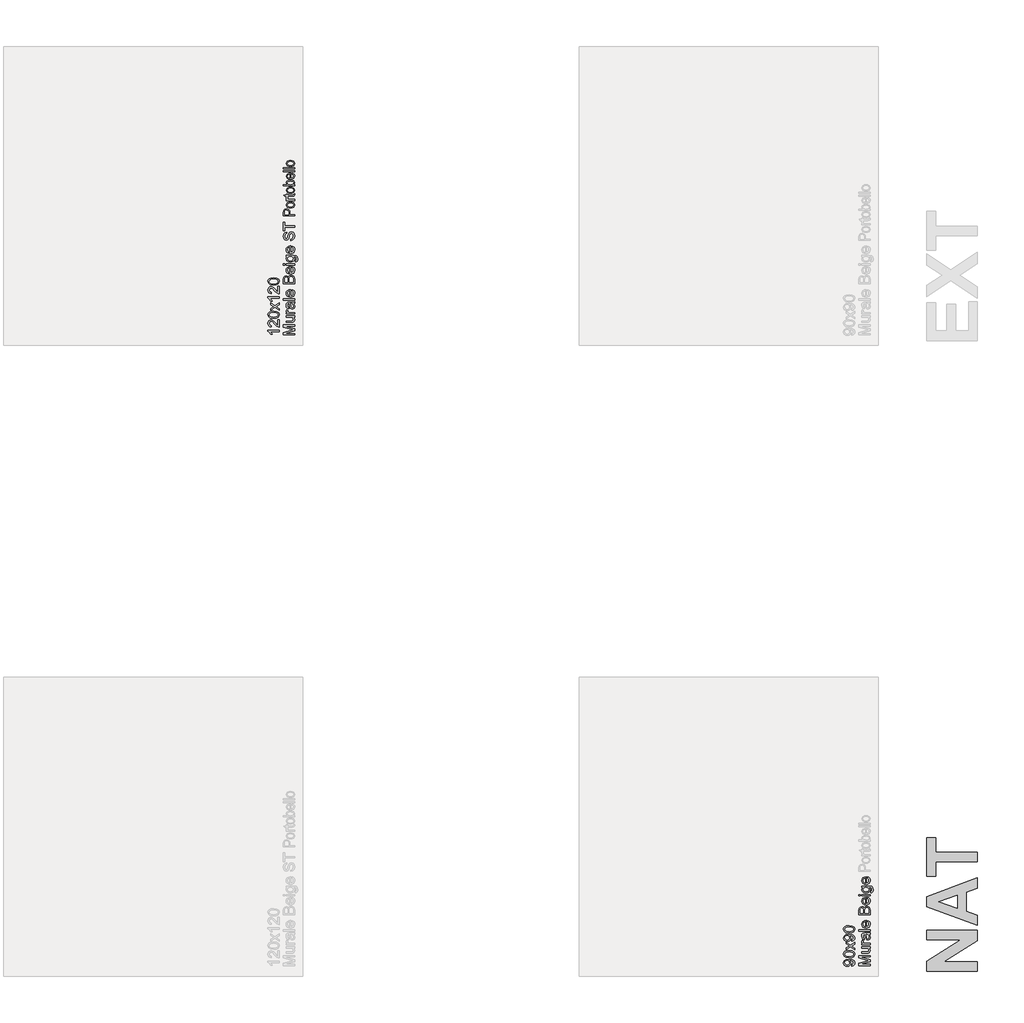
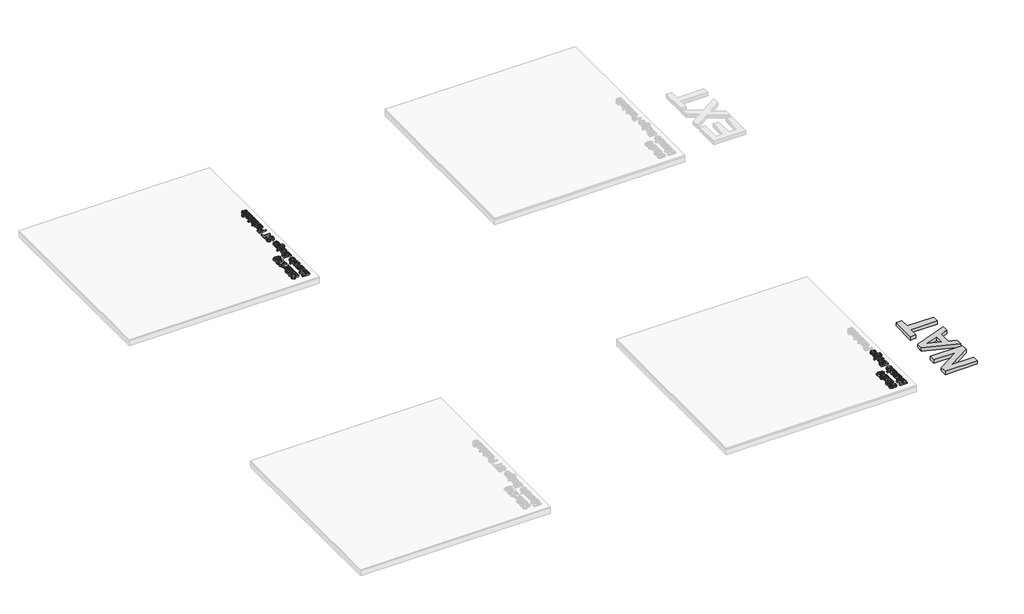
# One storey, part 14 of 21: 6 proxies.
"""IFC4 building model written with IfcOpenShell, lengths in millimetres."""

from ifc_helpers import new_model, si_unit, frame, origin, origin_with_axes, place, context, project, spatial, polyline, outline, extrude, element, save

model = new_model("IFC4")

# Units and contexts
model_context = context("Model", 3, world=origin())
ifc_project = project(units=[si_unit("LENGTHUNIT", "METRE", prefix="MILLI")], contexts=[model_context])

# Site, building, storey
site = spatial("IfcSite", under=ifc_project)
building = spatial("IfcBuilding", under=site)
storey = spatial("IfcBuildingStorey", under=building, Name="PORTOBELLO - SHOWROOM", Elevation=0.0)

# Proxies
placement = place(None, origin())
element("IfcBuildingElementProxy", 1, Name="10mm Arial", ObjectType="10mm Arial", at=placement, inside=storey, context=model_context, shape_type="SweptSolid", body=[
    extrude(outline(polyline([(28359.4625095, 16969.8696803), (28259.0061994, 16969.8696803), (28259.0061994, 16991.4030397), (28329.8112207, 17012.0044314), (28344.6000769, 17016.1737607), (28328.5849474, 17020.6619211), (28259.0061994, 17040.8709053), (28259.0061994, 17062.4778412), (28359.4625095, 17062.4778412), (28359.4625095, 17049.9208024), (28271.5632382, 17049.9208024), (28359.4625095, 17024.6840975), (28359.4625095, 17007.6879494), (28271.5632382, 16982.426719), (28359.4625095, 16982.426719), (28359.4625095, 16969.8696803)])), frame((0.0, 0.0, 18.0), z_axis=(0.0, 0.0, 1.0), x_axis=(1.0, 0.0, 0.0)), (0.0, 0.0, 1.0), 20.0),
    extrude(outline(polyline([(28359.4625095, 17129.9719246), (28346.7828434, 17129.9719246), (28357.4698154, 17120.1372126), (28361.0321394, 17107.3103937), (28358.5305418, 17095.5013816), (28352.2520224, 17087.3589268), (28343.0059216, 17083.6187932), (28331.3317996, 17082.8830292), (28285.6899068, 17082.8830292), (28285.6899068, 17095.4400679), (28325.4211622, 17095.4400679), (28338.2234557, 17096.2003574), (28345.7405111, 17101.1667643), (28348.4751006, 17110.5232297), (28345.6791974, 17121.0078666), (28338.0640401, 17127.9363109), (28324.0722616, 17129.9719246), (28285.6899068, 17129.9719246), (28285.6899068, 17142.5289633), (28359.4625095, 17142.5289633), (28359.4625095, 17129.9719246)])), frame((0.0, 0.0, 18.0), z_axis=(0.0, 0.0, 1.0), x_axis=(1.0, 0.0, 0.0)), (0.0, 0.0, 1.0), 20.0),
    extrude(outline(polyline([(28359.4625095, 17159.7948916), (28285.6899068, 17159.7948916), (28285.6899068, 17170.7823006), (28296.6037393, 17170.7823006), (28286.5482981, 17178.5813989), (28284.1202769, 17186.4295481), (28287.9953006, 17199.0356378), (28299.2524897, 17194.841783), (28296.6773157, 17186.0126152), (28299.1543878, 17178.9124927), (28306.0215184, 17174.3875441), (28320.6877472, 17172.3519304), (28359.4625095, 17172.3519304), (28359.4625095, 17159.7948916)])), frame((0.0, 0.0, 18.0), z_axis=(0.0, 0.0, 1.0), x_axis=(1.0, 0.0, 0.0)), (0.0, 0.0, 1.0), 20.0),
    extrude(outline(polyline([(28350.0447305, 17253.9726824), (28358.5550673, 17241.7957884), (28361.0321394, 17228.3435701), (28359.5422173, 17217.8497362), (28355.0724511, 17210.1088858), (28348.2850282, 17205.335617), (28339.8421365, 17203.7445273), (28329.9093226, 17206.148023), (28322.6988355, 17212.4633306), (28318.5785571, 17221.2557103), (28316.6900962, 17232.1204919), (28312.3736142, 17253.899106), (28309.577711, 17253.9726824), (28300.3070847, 17250.5145916), (28296.6773157, 17236.6331777), (28299.0930741, 17223.9289861), (28307.6647246, 17217.8711959), (28306.0950948, 17205.3141572), (28293.8323616, 17210.746548), (28286.6464, 17221.684906), (28284.1202769, 17238.2518585), (28286.3520944, 17253.4699103), (28291.9561634, 17262.0660863), (28300.478763, 17265.9165845), (28311.4661719, 17266.5297212), (28327.088894, 17266.5297212), (28348.9042963, 17267.1673833), (28359.4625095, 17269.6689809), (28359.4625095, 17257.1119421), (28350.0447305, 17253.9726824)]), holes=[polyline([(28324.9306529, 17253.9726824), (28328.7811511, 17233.7146472), (28330.8167648, 17222.9111793), (28334.1277028, 17218.0183487), (28338.9592197, 17216.3015661), (28345.7527738, 17220.0416997), (28348.4751006, 17231.0168459), (28345.470731, 17243.7210375), (28338.1989302, 17251.9125432), (28328.4868455, 17253.899106), (28324.9306529, 17253.9726824)])]), frame((0.0, 0.0, 18.0), z_axis=(0.0, 0.0, 1.0), x_axis=(1.0, 0.0, 0.0)), (0.0, 0.0, 1.0), 20.0),
    extrude(outline(polyline([(28359.4625095, 17283.7956495), (28259.0061994, 17283.7956495), (28259.0061994, 17296.3526882), (28359.4625095, 17296.3526882), (28359.4625095, 17283.7956495)])), frame((0.0, 0.0, 18.0), z_axis=(0.0, 0.0, 1.0), x_axis=(1.0, 0.0, 0.0)), (0.0, 0.0, 1.0), 20.0),
    extrude(outline(polyline([(28337.4876917, 17366.8388785), (28339.0573215, 17379.1506626), (28348.3340792, 17374.7146189), (28355.2686548, 17367.6359562), (28359.5912682, 17358.07409), (28361.0321394, 17346.1884359), (28358.5458702, 17331.454762), (28351.0870628, 17320.1178651), (28339.140095, 17312.8889839), (28323.1893448, 17310.4793569), (28306.7021001, 17312.9135094), (28294.3719219, 17320.215967), (28286.6831882, 17331.3995797), (28284.1202769, 17345.4771973), (28286.6770568, 17359.1164223), (28294.3473964, 17370.0149264), (28306.6530491, 17377.1610342), (28323.1157684, 17379.5430701), (28326.5002828, 17379.4694937), (28326.5002828, 17323.0363956), (28335.8996677, 17325.2099651), (28342.8097179, 17330.2591455), (28347.0587549, 17337.5462747), (28348.4751006, 17346.4336905), (28345.8508757, 17358.7454746), (28337.4876917, 17366.8388785)]), holes=[polyline([(28313.943244, 17323.0363956), (28313.943244, 17366.9860313), (28302.5634276, 17361.9583107), (28298.1488437, 17354.637459), (28296.6773157, 17345.4281464), (28301.3739425, 17329.9648399), (28306.8645813, 17325.0996005), (28313.943244, 17323.0363956)])]), frame((0.0, 0.0, 18.0), z_axis=(0.0, 0.0, 1.0), x_axis=(1.0, 0.0, 0.0)), (0.0, 0.0, 1.0), 20.0),
    extrude(outline(polyline([(28359.4625095, 17432.9104849), (28259.0061994, 17432.9104849), (28259.0061994, 17471.2437888), (28261.9615181, 17490.0180332), (28271.0482034, 17501.103544), (28283.8995477, 17505.1134578), (28295.6349834, 17501.7412062), (28304.5254649, 17491.5508749), (28313.8941931, 17503.9239727), (28329.5169151, 17508.2527175), (28343.0181843, 17505.2973988), (28352.6321672, 17497.9765471), (28357.7334642, 17487.0504518), (28359.4625095, 17470.9494832), (28359.4625095, 17432.9104849)]), holes=[polyline([(28299.8165754, 17445.4675236), (28299.8165754, 17468.3988347), (28298.7374549, 17481.7897393), (28294.089879, 17489.846355), (28285.910636, 17492.556419), (28277.7191302, 17490.030296), (28272.8753506, 17482.7952834), (28271.5632382, 17466.6575265), (28271.5632382, 17445.4675236), (28299.8165754, 17445.4675236)]), polyline([(28346.9054708, 17445.4675236), (28346.9054708, 17471.2192633), (28346.4149614, 17480.5389405), (28343.6803719, 17488.4238779), (28338.1008283, 17493.6478023), (28329.6395425, 17495.6956787), (28319.8784069, 17493.292183), (28314.0536086, 17485.5053474), (28312.3736142, 17469.99299), (28312.3736142, 17445.4675236), (28346.9054708, 17445.4675236)])]), frame((0.0, 0.0, 18.0), z_axis=(0.0, 0.0, 1.0), x_axis=(1.0, 0.0, 0.0)), (0.0, 0.0, 1.0), 20.0),
    extrude(outline(polyline([(28337.4876917, 17575.5996481), (28339.0573215, 17587.9114322), (28348.3340792, 17583.4753884), (28355.2686548, 17576.3967257), (28359.5912682, 17566.8348595), (28361.0321394, 17554.9492054), (28358.5458702, 17540.2155315), (28351.0870628, 17528.8786347), (28339.140095, 17521.6497535), (28323.1893448, 17519.2401264), (28306.7021001, 17521.6742789), (28294.3719219, 17528.9767365), (28286.6831882, 17540.1603492), (28284.1202769, 17554.2379669), (28286.6770568, 17567.8771918), (28294.3473964, 17578.7756959), (28306.6530491, 17585.9218037), (28323.1157684, 17588.3038396), (28326.5002828, 17588.2302632), (28326.5002828, 17531.7971652), (28335.8996677, 17533.9707346), (28342.8097179, 17539.019915), (28347.0587549, 17546.3070442), (28348.4751006, 17555.1944601), (28345.8508757, 17567.5062442), (28337.4876917, 17575.5996481)]), holes=[polyline([(28313.943244, 17531.7971652), (28313.943244, 17575.7468008), (28302.5634276, 17570.7190802), (28298.1488437, 17563.3982285), (28296.6773157, 17554.1889159), (28301.3739425, 17538.7256094), (28306.8645813, 17533.86037), (28313.943244, 17531.7971652)])]), frame((0.0, 0.0, 18.0), z_axis=(0.0, 0.0, 1.0), x_axis=(1.0, 0.0, 0.0)), (0.0, 0.0, 1.0), 20.0),
    extrude(outline(polyline([(28271.5632382, 17600.8608784), (28259.0061994, 17600.8608784), (28259.0061994, 17613.4179172), (28271.5632382, 17613.4179172), (28271.5632382, 17600.8608784)])), frame((0.0, 0.0, 18.0), z_axis=(0.0, 0.0, 1.0), x_axis=(1.0, 0.0, 0.0)), (0.0, 0.0, 1.0), 20.0),
    extrude(outline(polyline([(28359.4625095, 17600.8608784), (28285.6899068, 17600.8608784), (28285.6899068, 17613.4179172), (28359.4625095, 17613.4179172), (28359.4625095, 17600.8608784)])), frame((0.0, 0.0, 18.0), z_axis=(0.0, 0.0, 1.0), x_axis=(1.0, 0.0, 0.0)), (0.0, 0.0, 1.0), 20.0),
    extrude(outline(polyline([(28365.7410289, 17629.1142156), (28367.3106588, 17641.6712544), (28373.9325347, 17645.7424818), (28376.7284378, 17657.9316386), (28373.5646527, 17670.7829829), (28364.6864339, 17676.9143495), (28350.0447305, 17677.7727408), (28357.1080648, 17668.9313102), (28359.4625095, 17658.1523678), (28356.7217887, 17645.2059872), (28348.4996261, 17635.5521505), (28336.4453594, 17629.546477), (28322.2083262, 17627.5445858), (28302.7473686, 17631.1375666), (28288.9763193, 17641.5363643), (28284.1202769, 17657.5392311), (28286.8671292, 17668.7412379), (28295.1076858, 17677.7727408), (28285.6899068, 17677.7727408), (28285.6899068, 17690.3297796), (28349.3825429, 17690.3297796), (28373.7731191, 17686.8962143), (28385.1161473, 17676.01917), (28389.2854766, 17657.6863839), (28387.8170143, 17646.0030649), (28383.4116274, 17636.8029493), (28376.0570532, 17630.901509), (28365.7410289, 17629.1142156)]), holes=[polyline([(28321.3499348, 17640.1016245), (28332.867707, 17641.4413281), (28340.7863669, 17645.4604389), (28345.3756948, 17651.5029007), (28346.9054708, 17658.9126572), (28345.3848919, 17666.2672314), (28340.8231551, 17672.34035), (28333.0056627, 17676.4146431), (28321.7178168, 17677.7727408), (28310.8315755, 17676.3747893), (28302.9926233, 17672.1809345), (28298.2561426, 17666.0189111), (28296.6773157, 17658.7164535), (28298.2316171, 17651.5458203), (28302.8945214, 17645.5340153), (28310.6169776, 17641.4597222), (28321.3499348, 17640.1016245)])]), frame((0.0, 0.0, 18.0), z_axis=(0.0, 0.0, 1.0), x_axis=(1.0, 0.0, 0.0)), (0.0, 0.0, 1.0), 20.0),
    extrude(outline(polyline([(28337.4876917, 17760.8159699), (28339.0573215, 17773.127754), (28348.3340792, 17768.6917103), (28355.2686548, 17761.6130475), (28359.5912682, 17752.0511814), (28361.0321394, 17740.1655272), (28358.5458702, 17725.4318533), (28351.0870628, 17714.0949565), (28339.140095, 17706.8660753), (28323.1893448, 17704.4564482), (28306.7021001, 17706.8906008), (28294.3719219, 17714.1930584), (28286.6831882, 17725.376671), (28284.1202769, 17739.4542887), (28286.6770568, 17753.0935137), (28294.3473964, 17763.9920178), (28306.6530491, 17771.1381255), (28323.1157684, 17773.5201615), (28326.5002828, 17773.4465851), (28326.5002828, 17717.013487), (28335.8996677, 17719.1870565), (28342.8097179, 17724.2362368), (28347.0587549, 17731.523366), (28348.4751006, 17740.4107819), (28345.8508757, 17752.722566), (28337.4876917, 17760.8159699)]), holes=[polyline([(28313.943244, 17717.013487), (28313.943244, 17760.9631227), (28302.5634276, 17755.9354021), (28298.1488437, 17748.6145504), (28296.6773157, 17739.4052378), (28301.3739425, 17723.9419312), (28306.8645813, 17719.0766919), (28313.943244, 17717.013487)])]), frame((0.0, 0.0, 18.0), z_axis=(0.0, 0.0, 1.0), x_axis=(1.0, 0.0, 0.0)), (0.0, 0.0, 1.0), 20.0),
])
element("IfcBuildingElementProxy", 2, Name="10mm Arial", ObjectType="10mm Arial", at=placement, inside=storey, context=model_context, shape_type="SweptSolid", body=[
    extrude(outline(polyline([(28194.348432, 16966.7304206), (28192.7788021, 16979.2874593), (28204.7594925, 16984.9283166), (28208.4751006, 16995.6214199), (28206.0838676, 17005.7872257), (28199.6949837, 17012.6788818), (28188.7811511, 17016.7868974), (28174.2130241, 17018.6017819), (28171.7604775, 17018.5282055), (28181.2763584, 17008.485027), (28184.9306529, 16994.7139777), (28182.6988355, 16983.2636506), (28176.0033832, 16973.7324412), (28165.6597677, 16967.3037033), (28152.4834609, 16965.1607907), (28138.8718271, 16967.4079366), (28128.2032493, 16974.1493741), (28121.3054619, 16984.2753261), (28119.0061994, 16996.676015), (28124.2546492, 17014.5673427), (28139.2151837, 17026.8791268), (28167.3213681, 17031.0852443), (28197.8187855, 17026.8913895), (28207.8098473, 17021.6766622), (28215.0969765, 17014.4201899), (28219.5483487, 17005.4346721), (28221.0321394, 16995.0328087), (28219.2816342, 16984.2967858), (28214.0301187, 16975.7312667), (28205.6086867, 16969.7409216), (28194.348432, 16966.7304206)]), holes=[polyline([(28152.1891553, 17018.5282055), (28143.6788185, 17017.1731735), (28137.130519, 17013.1080774), (28132.9550584, 17006.7989012), (28131.5632382, 16998.7116287), (28133.0623573, 16990.3239192), (28137.5597147, 16983.6039414), (28144.4421737, 16979.1893575), (28153.0965976, 16977.7178295), (28160.855842, 16979.1096497), (28167.0147998, 16983.2851103), (28171.0339106, 16989.8395412), (28172.3736142, 16998.3682722), (28167.0147998, 17012.85056), (28160.6289815, 17017.1087941), (28152.1891553, 17018.5282055)])]), frame((0.0, 0.0, 18.0), z_axis=(0.0, 0.0, 1.0), x_axis=(1.0, 0.0, 0.0)), (0.0, 0.0, 1.0), 20.0),
    extrude(outline(polyline([(28170.0436948, 17042.0726532), (28141.1404328, 17045.7637359), (28124.4753784, 17056.7266193), (28119.0061994, 17075.0348799), (28122.2435609, 17089.7011088), (28131.5755009, 17099.8301264), (28146.4379335, 17105.7162383), (28170.0436948, 17107.9971067), (28198.8243296, 17104.3428122), (28215.5261722, 17093.416717), (28219.6556476, 17085.1853573), (28221.0321394, 17075.0348799), (28218.6409064, 17061.9873319), (28211.4672075, 17052.0790434), (28194.4771907, 17044.5742507), (28170.0436948, 17042.0726532)]), holes=[polyline([(28170.0191694, 17054.6296919), (28189.7713668, 17056.1012199), (28201.2032998, 17060.5158039), (28206.6571504, 17067.0886289), (28208.4751006, 17075.0348799), (28206.6510191, 17082.981131), (28201.1787744, 17089.553956), (28189.74071, 17093.96854), (28170.0191694, 17095.4400679), (28150.711496, 17094.0175909), (28139.1906582, 17089.7501598), (28133.4700932, 17083.1895975), (28131.5632382, 17074.8877271), (28133.2432326, 17067.0273152), (28138.2832159, 17060.7120076), (28150.5214236, 17056.1502709), (28170.0191694, 17054.6296919)])]), frame((0.0, 0.0, 18.0), z_axis=(0.0, 0.0, 1.0), x_axis=(1.0, 0.0, 0.0)), (0.0, 0.0, 1.0), 20.0),
    extrude(outline(polyline([(28219.4625095, 17114.2756261), (28182.355479, 17141.1064863), (28145.6899068, 17115.8452559), (28145.6899068, 17130.9038923), (28163.372768, 17143.0930491), (28171.6869011, 17148.8074827), (28164.8688214, 17153.7616269), (28145.6899068, 17167.6430409), (28145.6899068, 17182.7507281), (28182.3800044, 17156.2141735), (28219.4625095, 17181.7697095), (28219.4625095, 17166.6865477), (28197.1443352, 17151.2845548), (28193.0485823, 17148.4886516), (28219.4625095, 17129.3833134), (28219.4625095, 17114.2756261)])), frame((0.0, 0.0, 18.0), z_axis=(0.0, 0.0, 1.0), x_axis=(1.0, 0.0, 0.0)), (0.0, 0.0, 1.0), 20.0),
    extrude(outline(polyline([(28194.348432, 17191.1874886), (28192.7788021, 17203.7445273), (28204.7594925, 17209.3853846), (28208.4751006, 17220.0784879), (28206.0838676, 17230.2442937), (28199.6949837, 17237.1359498), (28188.7811511, 17241.2439654), (28174.2130241, 17243.0588499), (28171.7604775, 17242.9852735), (28181.2763584, 17232.942095), (28184.9306529, 17219.1710457), (28182.6988355, 17207.7207186), (28176.0033832, 17198.1895092), (28165.6597677, 17191.7607713), (28152.4834609, 17189.6178587), (28138.8718271, 17191.8650046), (28128.2032493, 17198.6064421), (28121.3054619, 17208.732394), (28119.0061994, 17221.133083), (28124.2546492, 17239.0244107), (28139.2151837, 17251.3361948), (28167.3213681, 17255.5423122), (28197.8187855, 17251.3484575), (28207.8098473, 17246.1337302), (28215.0969765, 17238.8772579), (28219.5483487, 17229.8917401), (28221.0321394, 17219.4898767), (28219.2816342, 17208.7538538), (28214.0301187, 17200.1883347), (28205.6086867, 17194.1979896), (28194.348432, 17191.1874886)]), holes=[polyline([(28152.1891553, 17242.9852735), (28143.6788185, 17241.6302415), (28137.130519, 17237.5651454), (28132.9550584, 17231.2559692), (28131.5632382, 17223.1686967), (28133.0623573, 17214.7809872), (28137.5597147, 17208.0610094), (28144.4421737, 17203.6464255), (28153.0965976, 17202.1748975), (28160.855842, 17203.5667177), (28167.0147998, 17207.7421783), (28171.0339106, 17214.2966092), (28172.3736142, 17222.8253401), (28167.0147998, 17237.307628), (28160.6289815, 17241.5658621), (28152.1891553, 17242.9852735)])]), frame((0.0, 0.0, 18.0), z_axis=(0.0, 0.0, 1.0), x_axis=(1.0, 0.0, 0.0)), (0.0, 0.0, 1.0), 20.0),
    extrude(outline(polyline([(28170.0436948, 17266.5297212), (28141.1404328, 17270.2208039), (28124.4753784, 17281.1836873), (28119.0061994, 17299.4919479), (28122.2435609, 17314.1581768), (28131.5755009, 17324.2871944), (28146.4379335, 17330.1733063), (28170.0436948, 17332.4541747), (28198.8243296, 17328.7998802), (28215.5261722, 17317.873785), (28219.6556476, 17309.6424253), (28221.0321394, 17299.4919479), (28218.6409064, 17286.4443998), (28211.4672075, 17276.5361114), (28194.4771907, 17269.0313187), (28170.0436948, 17266.5297212)]), holes=[polyline([(28170.0191694, 17279.0867599), (28189.7713668, 17280.5582879), (28201.2032998, 17284.9728719), (28206.6571504, 17291.5456968), (28208.4751006, 17299.4919479), (28206.6510191, 17307.438199), (28201.1787744, 17314.011024), (28189.74071, 17318.425608), (28170.0191694, 17319.8971359), (28150.711496, 17318.4746589), (28139.1906582, 17314.2072277), (28133.4700932, 17307.6466655), (28131.5632382, 17299.3447951), (28133.2432326, 17291.4843832), (28138.2832159, 17285.1690756), (28150.5214236, 17280.6073389), (28170.0191694, 17279.0867599)])]), frame((0.0, 0.0, 18.0), z_axis=(0.0, 0.0, 1.0), x_axis=(1.0, 0.0, 0.0)), (0.0, 0.0, 1.0), 20.0),
])
element("IfcBuildingElementProxy", 3, Name="10mm Arial", ObjectType="10mm Arial", at=placement, inside=storey, context=model_context, shape_type="SweptSolid", body=[
    extrude(outline(polyline([(23159.4374935, 22669.8696803), (23058.9811833, 22669.8696803), (23058.9811833, 22691.4030397), (23129.7862046, 22712.0044314), (23144.5750608, 22716.1737607), (23128.5599313, 22720.6619211), (23058.9811833, 22740.8709053), (23058.9811833, 22762.4778412), (23159.4374935, 22762.4778412), (23159.4374935, 22749.9208024), (23071.5382221, 22749.9208024), (23159.4374935, 22724.6840975), (23159.4374935, 22707.6879494), (23071.5382221, 22682.426719), (23159.4374935, 22682.426719), (23159.4374935, 22669.8696803)])), frame((0.0, 0.0, 17.0), z_axis=(0.0, 0.0, 1.0), x_axis=(1.0, 0.0, 0.0)), (0.0, 0.0, 1.0), 20.0),
    extrude(outline(polyline([(23159.4374935, 22829.9719246), (23146.7578274, 22829.9719246), (23157.4447993, 22820.1372126), (23161.0071233, 22807.3103937), (23158.5055257, 22795.5013816), (23152.2270063, 22787.3589268), (23142.9809055, 22783.6187932), (23131.3067836, 22782.8830292), (23085.6648907, 22782.8830292), (23085.6648907, 22795.4400679), (23125.3961462, 22795.4400679), (23138.1984396, 22796.2003574), (23145.715495, 22801.1667643), (23148.4500845, 22810.5232297), (23145.6541814, 22821.0078666), (23138.0390241, 22827.9363109), (23124.0472455, 22829.9719246), (23085.6648907, 22829.9719246), (23085.6648907, 22842.5289633), (23159.4374935, 22842.5289633), (23159.4374935, 22829.9719246)])), frame((0.0, 0.0, 17.0), z_axis=(0.0, 0.0, 1.0), x_axis=(1.0, 0.0, 0.0)), (0.0, 0.0, 1.0), 20.0),
    extrude(outline(polyline([(23159.4374935, 22859.7948916), (23085.6648907, 22859.7948916), (23085.6648907, 22870.7823006), (23096.5787232, 22870.7823006), (23086.523282, 22878.5813989), (23084.0952608, 22886.4295481), (23087.9702845, 22899.0356378), (23099.2274736, 22894.841783), (23096.6522996, 22886.0126152), (23099.1293717, 22878.9124927), (23105.9965023, 22874.3875441), (23120.6627312, 22872.3519304), (23159.4374935, 22872.3519304), (23159.4374935, 22859.7948916)])), frame((0.0, 0.0, 17.0), z_axis=(0.0, 0.0, 1.0), x_axis=(1.0, 0.0, 0.0)), (0.0, 0.0, 1.0), 20.0),
    extrude(outline(polyline([(23150.0197144, 22953.9726824), (23158.5300512, 22941.7957884), (23161.0071233, 22928.3435701), (23159.5172012, 22917.8497362), (23155.047435, 22910.1088858), (23148.2600122, 22905.335617), (23139.8171204, 22903.7445273), (23129.8843065, 22906.148023), (23122.6738194, 22912.4633306), (23118.5535411, 22921.2557103), (23116.6650801, 22932.1204919), (23112.3485981, 22953.899106), (23109.5526949, 22953.9726824), (23100.2820686, 22950.5145916), (23096.6522996, 22936.6331777), (23099.068058, 22923.9289861), (23107.6397085, 22917.8711959), (23106.0700787, 22905.3141572), (23093.8073455, 22910.746548), (23086.6213839, 22921.684906), (23084.0952608, 22938.2518585), (23086.3270783, 22953.4699103), (23091.9311473, 22962.0660863), (23100.4537469, 22965.9165845), (23111.4411558, 22966.5297212), (23127.0638779, 22966.5297212), (23148.8792802, 22967.1673833), (23159.4374935, 22969.6689809), (23159.4374935, 22957.1119421), (23150.0197144, 22953.9726824)]), holes=[polyline([(23124.9056368, 22953.9726824), (23128.7561351, 22933.7146472), (23130.7917488, 22922.9111793), (23134.1026867, 22918.0183487), (23138.9342036, 22916.3015661), (23145.7277578, 22920.0416997), (23148.4500845, 22931.0168459), (23145.4457149, 22943.7210375), (23138.1739141, 22951.9125432), (23128.4618295, 22953.899106), (23124.9056368, 22953.9726824)])]), frame((0.0, 0.0, 17.0), z_axis=(0.0, 0.0, 1.0), x_axis=(1.0, 0.0, 0.0)), (0.0, 0.0, 1.0), 20.0),
    extrude(outline(polyline([(23159.4374935, 22983.7956495), (23058.9811833, 22983.7956495), (23058.9811833, 22996.3526882), (23159.4374935, 22996.3526882), (23159.4374935, 22983.7956495)])), frame((0.0, 0.0, 17.0), z_axis=(0.0, 0.0, 1.0), x_axis=(1.0, 0.0, 0.0)), (0.0, 0.0, 1.0), 20.0),
    extrude(outline(polyline([(23137.4626756, 23066.8388785), (23139.0323055, 23079.1506626), (23148.3090631, 23074.7146189), (23155.2436387, 23067.6359562), (23159.5662521, 23058.07409), (23161.0071233, 23046.1884359), (23158.5208541, 23031.454762), (23151.0620467, 23020.1178651), (23139.1150789, 23012.8889839), (23123.1643287, 23010.4793569), (23106.677084, 23012.9135094), (23094.3469058, 23020.215967), (23086.6581721, 23031.3995797), (23084.0952608, 23045.4771973), (23086.6520407, 23059.1164223), (23094.3223803, 23070.0149264), (23106.628033, 23077.1610342), (23123.0907523, 23079.5430701), (23126.4752667, 23079.4694937), (23126.4752667, 23023.0363956), (23135.8746517, 23025.2099651), (23142.7847018, 23030.2591455), (23147.0337388, 23037.5462747), (23148.4500845, 23046.4336905), (23145.8258596, 23058.7454746), (23137.4626756, 23066.8388785)]), holes=[polyline([(23113.9182279, 23023.0363956), (23113.9182279, 23066.9860313), (23102.5384115, 23061.9583107), (23098.1238276, 23054.637459), (23096.6522996, 23045.4281464), (23101.3489264, 23029.9648399), (23106.8395652, 23025.0996005), (23113.9182279, 23023.0363956)])]), frame((0.0, 0.0, 17.0), z_axis=(0.0, 0.0, 1.0), x_axis=(1.0, 0.0, 0.0)), (0.0, 0.0, 1.0), 20.0),
    extrude(outline(polyline([(23159.4374935, 23132.9104849), (23058.9811833, 23132.9104849), (23058.9811833, 23171.2437888), (23061.936502, 23190.0180332), (23071.0231873, 23201.103544), (23083.8745316, 23205.1134578), (23095.6099673, 23201.7412062), (23104.5004488, 23191.5508749), (23113.869177, 23203.9239727), (23129.491899, 23208.2527175), (23142.9931683, 23205.2973988), (23152.6071511, 23197.9765471), (23157.7084481, 23187.0504518), (23159.4374935, 23170.9494832), (23159.4374935, 23132.9104849)]), holes=[polyline([(23099.7915593, 23145.4675236), (23099.7915593, 23168.3988347), (23098.7124388, 23181.7897393), (23094.0648629, 23189.846355), (23085.8856199, 23192.556419), (23077.6941141, 23190.030296), (23072.8503345, 23182.7952834), (23071.5382221, 23166.6575265), (23071.5382221, 23145.4675236), (23099.7915593, 23145.4675236)]), polyline([(23146.8804547, 23145.4675236), (23146.8804547, 23171.2192633), (23146.3899454, 23180.5389405), (23143.6553559, 23188.4238779), (23138.0758123, 23193.6478023), (23129.6145264, 23195.6956787), (23119.8533908, 23193.292183), (23114.0285925, 23185.5053474), (23112.3485981, 23169.99299), (23112.3485981, 23145.4675236), (23146.8804547, 23145.4675236)])]), frame((0.0, 0.0, 17.0), z_axis=(0.0, 0.0, 1.0), x_axis=(1.0, 0.0, 0.0)), (0.0, 0.0, 1.0), 20.0),
    extrude(outline(polyline([(23137.4626756, 23275.5996481), (23139.0323055, 23287.9114322), (23148.3090631, 23283.4753884), (23155.2436387, 23276.3967257), (23159.5662521, 23266.8348595), (23161.0071233, 23254.9492054), (23158.5208541, 23240.2155315), (23151.0620467, 23228.8786347), (23139.1150789, 23221.6497535), (23123.1643287, 23219.2401264), (23106.677084, 23221.6742789), (23094.3469058, 23228.9767365), (23086.6581721, 23240.1603492), (23084.0952608, 23254.2379669), (23086.6520407, 23267.8771918), (23094.3223803, 23278.7756959), (23106.628033, 23285.9218037), (23123.0907523, 23288.3038396), (23126.4752667, 23288.2302632), (23126.4752667, 23231.7971652), (23135.8746517, 23233.9707346), (23142.7847018, 23239.019915), (23147.0337388, 23246.3070442), (23148.4500845, 23255.1944601), (23145.8258596, 23267.5062442), (23137.4626756, 23275.5996481)]), holes=[polyline([(23113.9182279, 23231.7971652), (23113.9182279, 23275.7468008), (23102.5384115, 23270.7190802), (23098.1238276, 23263.3982285), (23096.6522996, 23254.1889159), (23101.3489264, 23238.7256094), (23106.8395652, 23233.86037), (23113.9182279, 23231.7971652)])]), frame((0.0, 0.0, 17.0), z_axis=(0.0, 0.0, 1.0), x_axis=(1.0, 0.0, 0.0)), (0.0, 0.0, 1.0), 20.0),
    extrude(outline(polyline([(23071.5382221, 23300.8608784), (23058.9811833, 23300.8608784), (23058.9811833, 23313.4179172), (23071.5382221, 23313.4179172), (23071.5382221, 23300.8608784)])), frame((0.0, 0.0, 17.0), z_axis=(0.0, 0.0, 1.0), x_axis=(1.0, 0.0, 0.0)), (0.0, 0.0, 1.0), 20.0),
    extrude(outline(polyline([(23159.4374935, 23300.8608784), (23085.6648907, 23300.8608784), (23085.6648907, 23313.4179172), (23159.4374935, 23313.4179172), (23159.4374935, 23300.8608784)])), frame((0.0, 0.0, 17.0), z_axis=(0.0, 0.0, 1.0), x_axis=(1.0, 0.0, 0.0)), (0.0, 0.0, 1.0), 20.0),
    extrude(outline(polyline([(23165.7160128, 23329.1142156), (23167.2856427, 23341.6712544), (23173.9075186, 23345.7424818), (23176.7034218, 23357.9316386), (23173.5396366, 23370.7829829), (23164.6614178, 23376.9143495), (23150.0197144, 23377.7727408), (23157.0830487, 23368.9313102), (23159.4374935, 23358.1523678), (23156.6967726, 23345.2059872), (23148.47461, 23335.5521505), (23136.4203433, 23329.546477), (23122.1833101, 23327.5445858), (23102.7223525, 23331.1375666), (23088.9513032, 23341.5363643), (23084.0952608, 23357.5392311), (23086.8421131, 23368.7412379), (23095.0826698, 23377.7727408), (23085.6648907, 23377.7727408), (23085.6648907, 23390.3297796), (23149.3575268, 23390.3297796), (23173.7481031, 23386.8962143), (23185.0911312, 23376.01917), (23189.2604605, 23357.6863839), (23187.7919982, 23346.0030649), (23183.3866113, 23336.8029493), (23176.0320371, 23330.901509), (23165.7160128, 23329.1142156)]), holes=[polyline([(23121.3249188, 23340.1016245), (23132.8426909, 23341.4413281), (23140.7613508, 23345.4604389), (23145.3506787, 23351.5029007), (23146.8804547, 23358.9126572), (23145.3598758, 23366.2672314), (23140.798139, 23372.34035), (23132.9806466, 23376.4146431), (23121.6928007, 23377.7727408), (23110.8065594, 23376.3747893), (23102.9676072, 23372.1809345), (23098.2311265, 23366.0189111), (23096.6522996, 23358.7164535), (23098.206601, 23351.5458203), (23102.8695053, 23345.5340153), (23110.5919615, 23341.4597222), (23121.3249188, 23340.1016245)])]), frame((0.0, 0.0, 17.0), z_axis=(0.0, 0.0, 1.0), x_axis=(1.0, 0.0, 0.0)), (0.0, 0.0, 1.0), 20.0),
    extrude(outline(polyline([(23137.4626756, 23460.8159699), (23139.0323055, 23473.127754), (23148.3090631, 23468.6917103), (23155.2436387, 23461.6130475), (23159.5662521, 23452.0511814), (23161.0071233, 23440.1655272), (23158.5208541, 23425.4318533), (23151.0620467, 23414.0949565), (23139.1150789, 23406.8660753), (23123.1643287, 23404.4564482), (23106.677084, 23406.8906008), (23094.3469058, 23414.1930584), (23086.6581721, 23425.376671), (23084.0952608, 23439.4542887), (23086.6520407, 23453.0935137), (23094.3223803, 23463.9920178), (23106.628033, 23471.1381255), (23123.0907523, 23473.5201615), (23126.4752667, 23473.4465851), (23126.4752667, 23417.013487), (23135.8746517, 23419.1870565), (23142.7847018, 23424.2362368), (23147.0337388, 23431.523366), (23148.4500845, 23440.4107819), (23145.8258596, 23452.722566), (23137.4626756, 23460.8159699)]), holes=[polyline([(23113.9182279, 23417.013487), (23113.9182279, 23460.9631227), (23102.5384115, 23455.9354021), (23098.1238276, 23448.6145504), (23096.6522996, 23439.4052378), (23101.3489264, 23423.9419312), (23106.8395652, 23419.0766919), (23113.9182279, 23417.013487)])]), frame((0.0, 0.0, 17.0), z_axis=(0.0, 0.0, 1.0), x_axis=(1.0, 0.0, 0.0)), (0.0, 0.0, 1.0), 20.0),
    extrude(outline(polyline([(23124.9056368, 23522.1786867), (23124.9056368, 23534.7357255), (23137.4749383, 23538.7824274), (23145.4211894, 23548.6661903), (23148.4500845, 23563.7248267), (23146.1569534, 23576.8459512), (23139.8539086, 23585.3194998), (23131.4294109, 23588.1031402), (23123.5935244, 23586.0184756), (23117.8913535, 23577.4836133), (23113.0966248, 23559.1998781), (23106.9039445, 23539.5181914), (23097.5597419, 23528.8373508), (23085.0762795, 23525.3179464), (23070.8637717, 23529.6712167), (23060.832856, 23542.387671), (23057.4115535, 23561.0024999), (23060.9922715, 23580.8681276), (23071.5136966, 23594.1118795), (23087.2345205, 23599.0905491), (23087.2345205, 23586.5335104), (23079.7419906, 23584.2281165), (23074.3341252, 23579.4211251), (23069.9685922, 23561.4930092), (23074.2850743, 23543.5158424), (23084.7083975, 23537.8749851), (23093.414938, 23541.8726362), (23100.4292214, 23562.375926), (23106.7322663, 23584.5959985), (23116.9103348, 23596.7483671), (23131.1105798, 23600.660179), (23146.132428, 23596.1597559), (23157.0953114, 23583.2103097), (23161.0071233, 23564.215336), (23156.7887431, 23541.786797), (23144.0845515, 23527.5988147), (23124.9056368, 23522.1786867)])), frame((0.0, 0.0, 17.0), z_axis=(0.0, 0.0, 1.0), x_axis=(1.0, 0.0, 0.0)), (0.0, 0.0, 1.0), 20.0),
    extrude(outline(polyline([(23159.4374935, 23644.6098147), (23071.5382221, 23644.6098147), (23071.5382221, 23611.6475879), (23058.9811833, 23611.6475879), (23058.9811833, 23690.1290802), (23071.5382221, 23690.1290802), (23071.5382221, 23657.1668534), (23159.4374935, 23657.1668534), (23159.4374935, 23644.6098147)])), frame((0.0, 0.0, 17.0), z_axis=(0.0, 0.0, 1.0), x_axis=(1.0, 0.0, 0.0)), (0.0, 0.0, 1.0), 20.0),
])
element("IfcBuildingElementProxy", 4, Name="10mm Arial", ObjectType="10mm Arial", at=placement, inside=storey, context=model_context, shape_type="SweptSolid", body=[
    extrude(outline(polyline([(23019.4374935, 22712.2496861), (23019.4374935, 22699.6926473), (22941.1522049, 22699.6926473), (22949.6257535, 22687.7977962), (22955.9655865, 22674.5785698), (22944.0952608, 22674.5785698), (22932.3475625, 22692.9849323), (22918.9811833, 22704.1562822), (22918.9811833, 22712.2496861), (23019.4374935, 22712.2496861)])), frame((0.0, 0.0, 17.0), z_axis=(0.0, 0.0, 1.0), x_axis=(1.0, 0.0, 0.0)), (0.0, 0.0, 1.0), 20.0),
    extrude(outline(polyline([(23006.8804547, 22806.4274769), (23019.4374935, 22806.4274769), (23019.4374935, 22740.5030233), (23010.7800038, 22741.851924), (22997.4504129, 22749.4916067), (22982.8945486, 22765.2246934), (22961.9743258, 22786.8929429), (22947.7495553, 22792.3008083), (22936.2348489, 22787.1872485), (22931.5382221, 22773.8331321), (22936.1244843, 22759.9149299), (22948.8041504, 22754.6296919), (22947.2345205, 22742.0726532), (22935.0882833, 22745.1168767), (22926.2161959, 22751.6988987), (22920.7899364, 22761.4753627), (22918.9811833, 22774.1029122), (22920.9922715, 22786.8224322), (22927.0255363, 22796.5805021), (22936.0386451, 22802.7885108), (22946.9892659, 22804.857847), (22958.8963798, 22802.6260296), (22971.2081639, 22795.207076), (22988.4127785, 22777.2176465), (23000.4915707, 22762.7721468), (23006.8804547, 22757.106764), (23006.8804547, 22806.4274769)])), frame((0.0, 0.0, 17.0), z_axis=(0.0, 0.0, 1.0), x_axis=(1.0, 0.0, 0.0)), (0.0, 0.0, 1.0), 20.0),
    extrude(outline(polyline([(22970.0186788, 22818.9845156), (22941.1154167, 22822.6755983), (22924.4503623, 22833.6384818), (22918.9811833, 22851.9467424), (22922.2185449, 22866.6129713), (22931.5504848, 22876.7419889), (22946.4129174, 22882.6281008), (22970.0186788, 22884.9089692), (22998.7993135, 22881.2546747), (23015.5011561, 22870.3285794), (23019.6306315, 22862.0972198), (23021.0071233, 22851.9467424), (23018.6158903, 22838.8991943), (23011.4421914, 22828.9909059), (22994.4521746, 22821.4861132), (22970.0186788, 22818.9845156)]), holes=[polyline([(22969.9941533, 22831.5415544), (22989.7463508, 22833.0130824), (23001.1782838, 22837.4276663), (23006.6321343, 22844.0004913), (23008.4500845, 22851.9467424), (23006.626003, 22859.8929935), (23001.1537583, 22866.4658185), (22989.7156939, 22870.8804024), (22969.9941533, 22872.3519304), (22950.6864799, 22870.9294534), (22939.1656421, 22866.6620222), (22933.4450771, 22860.10146), (22931.5382221, 22851.7995896), (22933.2182165, 22843.9391776), (22938.2581998, 22837.6238701), (22950.4964076, 22833.0621333), (22969.9941533, 22831.5415544)])]), frame((0.0, 0.0, 17.0), z_axis=(0.0, 0.0, 1.0), x_axis=(1.0, 0.0, 0.0)), (0.0, 0.0, 1.0), 20.0),
    extrude(outline(polyline([(23019.4374935, 22891.1874886), (22982.3304629, 22918.0183487), (22945.6648907, 22892.7571184), (22945.6648907, 22907.8157547), (22963.3477519, 22920.0049115), (22971.661885, 22925.7193452), (22964.8438054, 22930.6734894), (22945.6648907, 22944.5549033), (22945.6648907, 22959.6625906), (22982.3549883, 22933.126036), (23019.4374935, 22958.6815719), (23019.4374935, 22943.5984101), (22997.1193191, 22928.1964173), (22993.0235662, 22925.4005141), (23019.4374935, 22906.2951758), (23019.4374935, 22891.1874886)])), frame((0.0, 0.0, 17.0), z_axis=(0.0, 0.0, 1.0), x_axis=(1.0, 0.0, 0.0)), (0.0, 0.0, 1.0), 20.0),
    extrude(outline(polyline([(23019.4374935, 23013.6186166), (23019.4374935, 23001.0615778), (22941.1522049, 23001.0615778), (22949.6257535, 22989.1667266), (22955.9655865, 22975.9475002), (22944.0952608, 22975.9475002), (22932.3475625, 22994.3538627), (22918.9811833, 23005.5252127), (22918.9811833, 23013.6186166), (23019.4374935, 23013.6186166)])), frame((0.0, 0.0, 17.0), z_axis=(0.0, 0.0, 1.0), x_axis=(1.0, 0.0, 0.0)), (0.0, 0.0, 1.0), 20.0),
    extrude(outline(polyline([(23006.8804547, 23107.7964073), (23019.4374935, 23107.7964073), (23019.4374935, 23041.8719538), (23010.7800038, 23043.2208544), (22997.4504129, 23050.8605372), (22982.8945486, 23066.5936239), (22961.9743258, 23088.2618734), (22947.7495553, 23093.6697387), (22936.2348489, 23088.556179), (22931.5382221, 23075.2020625), (22936.1244843, 23061.2838604), (22948.8041504, 23055.9986224), (22947.2345205, 23043.4415836), (22935.0882833, 23046.4858071), (22926.2161959, 23053.0678292), (22920.7899364, 23062.8442932), (22918.9811833, 23075.4718427), (22920.9922715, 23088.1913627), (22927.0255363, 23097.9494326), (22936.0386451, 23104.1574412), (22946.9892659, 23106.2267775), (22958.8963798, 23103.99496), (22971.2081639, 23096.5760065), (22988.4127785, 23078.5865769), (23000.4915707, 23064.1410772), (23006.8804547, 23058.4756945), (23006.8804547, 23107.7964073)])), frame((0.0, 0.0, 17.0), z_axis=(0.0, 0.0, 1.0), x_axis=(1.0, 0.0, 0.0)), (0.0, 0.0, 1.0), 20.0),
    extrude(outline(polyline([(22970.0186788, 23120.3534461), (22941.1154167, 23124.0445288), (22924.4503623, 23135.0074122), (22918.9811833, 23153.3156729), (22922.2185449, 23167.9819017), (22931.5504848, 23178.1109193), (22946.4129174, 23183.9970313), (22970.0186788, 23186.2778996), (22998.7993135, 23182.6236051), (23015.5011561, 23171.6975099), (23019.6306315, 23163.4661502), (23021.0071233, 23153.3156729), (23018.6158903, 23140.2681248), (23011.4421914, 23130.3598364), (22994.4521746, 23122.8550437), (22970.0186788, 23120.3534461)]), holes=[polyline([(22969.9941533, 23132.9104849), (22989.7463508, 23134.3820128), (23001.1782838, 23138.7965968), (23006.6321343, 23145.3694218), (23008.4500845, 23153.3156729), (23006.626003, 23161.2619239), (23001.1537583, 23167.8347489), (22989.7156939, 23172.2493329), (22969.9941533, 23173.7208609), (22950.6864799, 23172.2983838), (22939.1656421, 23168.0309527), (22933.4450771, 23161.4703904), (22931.5382221, 23153.1685201), (22933.2182165, 23145.3081081), (22938.2581998, 23138.9928005), (22950.4964076, 23134.4310638), (22969.9941533, 23132.9104849)])]), frame((0.0, 0.0, 17.0), z_axis=(0.0, 0.0, 1.0), x_axis=(1.0, 0.0, 0.0)), (0.0, 0.0, 1.0), 20.0),
])
element("IfcBuildingElementProxy", 5, Name="10mm Arial Narrow", ObjectType="10mm Arial Narrow", at=placement, inside=storey, context=model_context, shape_type="SweptSolid", body=[
    extrude(outline(polyline([(23159.4374935, 23744.588476), (23058.7188897, 23744.588476), (23058.7188897, 23775.8853607), (23060.5972104, 23792.1810622), (23070.0776536, 23803.6540483), (23087.0967624, 23807.9437267), (23099.172588, 23806.1574183), (23108.7989817, 23800.7984931), (23115.1002401, 23791.0547043), (23117.2006596, 23776.1138051), (23117.2006596, 23754.3354376), (23159.4374935, 23754.3354376), (23159.4374935, 23744.588476)]), holes=[polyline([(23105.8292044, 23754.3354376), (23105.8292044, 23777.3067926), (23101.2983902, 23793.170988), (23087.6297994, 23798.1967651), (23077.464023, 23795.7219506), (23071.6640731, 23789.7443218), (23070.090345, 23777.0783482), (23070.090345, 23754.3354376), (23105.8292044, 23754.3354376)])]), frame((0.0, 0.0, 17.0), z_axis=(0.0, 0.0, 1.0), x_axis=(1.0, 0.0, 0.0)), (0.0, 0.0, 1.0), 20.0),
    extrude(outline(polyline([(23122.8863873, 23816.0661948), (23106.2956117, 23818.0206637), (23094.3435269, 23823.8840703), (23087.1189723, 23832.742637), (23084.7107874, 23843.6825861), (23087.1189723, 23854.4956217), (23094.3435269, 23863.3795711), (23106.1052414, 23869.3191259), (23122.1249059, 23871.2989775), (23139.2867925, 23869.3540271), (23151.4292476, 23863.5191761), (23158.6538022, 23854.6701279), (23161.0619871, 23843.6825861), (23158.6474565, 23832.821958), (23151.4038649, 23823.9475271), (23139.4454344, 23818.0365278), (23122.8863873, 23816.0661948)]), holes=[polyline([(23122.8610045, 23825.8131564), (23135.4127559, 23827.1171933), (23144.284014, 23831.0293039), (23149.5572726, 23836.8705006), (23151.3150254, 23843.961796), (23149.5414084, 23850.6818691), (23144.2205572, 23856.3739424), (23135.333435, 23860.2574975), (23122.8610045, 23861.5520158), (23110.3473272, 23860.247979), (23101.4887605, 23856.3358684), (23096.2155019, 23850.4946716), (23094.4577491, 23843.4033763), (23096.2250205, 23836.6357105), (23101.5268346, 23830.9531557), (23110.3949198, 23827.0981563), (23122.8610045, 23825.8131564)])]), frame((0.0, 0.0, 17.0), z_axis=(0.0, 0.0, 1.0), x_axis=(1.0, 0.0, 0.0)), (0.0, 0.0, 1.0), 20.0),
    extrude(outline(polyline([(23151.3150254, 23942.7766963), (23161.0619871, 23944.4011899), (23161.0619871, 23937.0402032), (23158.9425306, 23928.7654389), (23153.1425807, 23924.4503777), (23138.4967555, 23923.282773), (23096.0822427, 23923.282773), (23096.0822427, 23915.1603049), (23092.8332555, 23915.1603049), (23097.7067363, 23913.5358113), (23096.0822427, 23905.9717629), (23098.4047609, 23899.8926033), (23104.890044, 23896.0217396), (23120.2973506, 23894.041888), (23159.4374935, 23894.041888), (23159.4374935, 23884.2949264), (23086.335281, 23884.2949264), (23086.335281, 23894.041888), (23096.0314773, 23894.041888), (23086.9444662, 23900.2860353), (23084.7107874, 23906.6824789), (23086.335281, 23915.1603049), (23086.335281, 23923.282773), (23070.090345, 23923.282773), (23061.9678769, 23933.0297346), (23086.335281, 23933.0297346), (23086.335281, 23942.7766963), (23096.0822427, 23942.7766963), (23096.0822427, 23933.0297346), (23140.7304342, 23933.0297346), (23148.7259887, 23933.8927468), (23151.3150254, 23938.5124006), (23151.3150254, 23942.7766963)])), frame((0.0, 0.0, 17.0), z_axis=(0.0, 0.0, 1.0), x_axis=(1.0, 0.0, 0.0)), (0.0, 0.0, 1.0), 20.0),
    extrude(outline(polyline([(23122.8863873, 23949.2746707), (23106.2956117, 23951.2291396), (23094.3435269, 23957.0925462), (23087.1189723, 23965.9511129), (23084.7107874, 23976.8910621), (23087.1189723, 23987.7040976), (23094.3435269, 23996.5880471), (23106.1052414, 24002.5276018), (23122.1249059, 24004.5074534), (23139.2867925, 24002.5625031), (23151.4292476, 23996.727652), (23158.6538022, 23987.8786038), (23161.0619871, 23976.8910621), (23158.6474565, 23966.0304339), (23151.4038649, 23957.156003), (23139.4454344, 23951.2450038), (23122.8863873, 23949.2746707)]), holes=[polyline([(23122.8610045, 23959.0216324), (23135.4127559, 23960.3256692), (23144.284014, 23964.2377798), (23149.5572726, 23970.0789766), (23151.3150254, 23977.1702719), (23149.5414084, 23983.8903451), (23144.2205572, 23989.5824184), (23135.333435, 23993.4659734), (23122.8610045, 23994.7604918), (23110.3473272, 23993.4564549), (23101.4887605, 23989.5443443), (23096.2155019, 23983.7031476), (23094.4577491, 23976.6118522), (23096.2250205, 23969.8441865), (23101.5268346, 23964.1616317), (23110.3949198, 23960.3066322), (23122.8610045, 23959.0216324)])]), frame((0.0, 0.0, 17.0), z_axis=(0.0, 0.0, 1.0), x_axis=(1.0, 0.0, 0.0)), (0.0, 0.0, 1.0), 20.0),
    extrude(outline(polyline([(23159.4374935, 24027.2503639), (23159.4374935, 24017.5034023), (23058.7188897, 24017.5034023), (23058.7188897, 24027.2503639), (23094.1277738, 24027.2503639), (23087.045997, 24034.6494247), (23084.7107874, 24043.850658), (23088.9116264, 24056.7323847), (23101.6410568, 24066.0097661), (23122.3279676, 24069.4871978), (23138.782311, 24067.5549388), (23150.9850501, 24061.7581618), (23158.5427528, 24053.3850394), (23161.0619871, 24043.7237444), (23158.4475677, 24034.3829062), (23150.6804576, 24027.2503639), (23159.4374935, 24027.2503639)]), holes=[polyline([(23122.3279676, 24027.2503639), (23139.5755208, 24029.3317464), (23148.307174, 24035.2205357), (23151.3150254, 24043.672979), (23149.5255442, 24049.6157066), (23144.1571004, 24054.8540639), (23122.734091, 24059.7402361), (23101.2983902, 24055.0317429), (23096.1679094, 24049.7870399), (23094.4577491, 24043.4699173), (23096.2472303, 24037.4922885), (23101.6156741, 24032.1999929), (23122.3279676, 24027.2503639)])]), frame((0.0, 0.0, 17.0), z_axis=(0.0, 0.0, 1.0), x_axis=(1.0, 0.0, 0.0)), (0.0, 0.0, 1.0), 20.0),
    extrude(outline(polyline([(23136.6945829, 24121.4709933), (23138.3190765, 24131.2179549), (23148.2056431, 24127.5184245), (23155.325494, 24121.6994377), (23159.6278638, 24113.9957844), (23161.0619871, 24104.6422548), (23158.6474565, 24093.0487008), (23151.4038649, 24083.9045785), (23139.5977307, 24077.9650238), (23123.4955724, 24075.9851722), (23106.8286487, 24077.9745423), (23094.6481194, 24083.9426526), (23087.1951204, 24092.9566884), (23084.7107874, 24104.0838351), (23087.1094538, 24114.7667843), (23094.3054528, 24123.5143016), (23106.0449574, 24129.3491527), (23122.0741404, 24131.294103), (23125.3231277, 24131.2179549), (23125.3231277, 24085.7321339), (23144.7662855, 24091.7351454), (23149.6778404, 24097.6651816), (23151.3150254, 24104.7691683), (23147.6599148, 24114.9476361), (23136.6945829, 24121.4709933)]), holes=[polyline([(23115.576166, 24086.3920844), (23115.576166, 24121.4709933), (23101.3110815, 24117.2066975), (23096.1710822, 24111.381365), (23094.4577491, 24104.1599832), (23100.1688594, 24091.9508985), (23115.576166, 24086.3920844)])]), frame((0.0, 0.0, 17.0), z_axis=(0.0, 0.0, 1.0), x_axis=(1.0, 0.0, 0.0)), (0.0, 0.0, 1.0), 20.0),
    extrude(outline(polyline([(23159.4374935, 24144.2139038), (23058.7188897, 24144.2139038), (23058.7188897, 24153.9608654), (23159.4374935, 24153.9608654), (23159.4374935, 24144.2139038)])), frame((0.0, 0.0, 17.0), z_axis=(0.0, 0.0, 1.0), x_axis=(1.0, 0.0, 0.0)), (0.0, 0.0, 1.0), 20.0),
    extrude(outline(polyline([(23159.4374935, 24170.2058015), (23058.7188897, 24170.2058015), (23058.7188897, 24179.9527632), (23159.4374935, 24179.9527632), (23159.4374935, 24170.2058015)])), frame((0.0, 0.0, 17.0), z_axis=(0.0, 0.0, 1.0), x_axis=(1.0, 0.0, 0.0)), (0.0, 0.0, 1.0), 20.0),
    extrude(outline(polyline([(23122.8863873, 24191.3242184), (23106.2956117, 24193.2786873), (23094.3435269, 24199.1420939), (23087.1189723, 24208.0006606), (23084.7107874, 24218.9406098), (23087.1189723, 24229.7536454), (23094.3435269, 24238.6375948), (23106.1052414, 24244.5771496), (23122.1249059, 24246.5570011), (23139.2867925, 24244.6120508), (23151.4292476, 24238.7771997), (23158.6538022, 24229.9281515), (23161.0619871, 24218.9406098), (23158.6474565, 24208.0799816), (23151.4038649, 24199.2055507), (23139.4454344, 24193.2945515), (23122.8863873, 24191.3242184)]), holes=[polyline([(23122.8610045, 24201.0711801), (23135.4127559, 24202.375217), (23144.284014, 24206.2873275), (23149.5572726, 24212.1285243), (23151.3150254, 24219.2198196), (23149.5414084, 24225.9398928), (23144.2205572, 24231.6319661), (23135.333435, 24235.5155211), (23122.8610045, 24236.8100395), (23110.3473272, 24235.5060026), (23101.4887605, 24231.593892), (23096.2155019, 24225.7526953), (23094.4577491, 24218.6614), (23096.2250205, 24211.8937342), (23101.5268346, 24206.2111794), (23110.3949198, 24202.3561799), (23122.8610045, 24201.0711801)])]), frame((0.0, 0.0, 17.0), z_axis=(0.0, 0.0, 1.0), x_axis=(1.0, 0.0, 0.0)), (0.0, 0.0, 1.0), 20.0),
])
element("IfcBuildingElementProxy", 6, Name="450mm Arial", ObjectType="450mm Arial", at=placement, inside=storey, context=model_context, shape_type="SweptSolid", body=[
    extrude(outline(polyline([(29329.6729671, 16919.1171638), (28870.5562371, 16919.1171638), (28870.5562371, 17010.7810943), (29179.5946313, 17203.3322824), (28870.5562371, 17203.3322824), (28870.5562371, 17290.7830881), (29329.6729671, 17290.7830881), (29329.6729671, 17196.2724517), (29025.1893024, 17006.5679695), (29329.6729671, 17006.5679695), (29329.6729671, 16919.1171638)])), origin_with_axes(), (0.0, 0.0, 1.0), 50.0),
    extrude(outline(polyline([(29329.6729671, 17764.4749524), (29329.6729671, 17672.5832854), (29227.6470271, 17636.6009227), (29227.6470271, 17463.2934666), (29329.6729671, 17427.7665767), (29329.6729671, 17334.508491), (28870.5562371, 17501.8947988), (28870.5562371, 17595.2667528), (29329.6729671, 17764.4749524)]), holes=[polyline([(29147.4837885, 17608.5893365), (28979.8697443, 17549.4917217), (29147.4837885, 17491.1911845), (29147.4837885, 17608.5893365)])]), origin_with_axes(), (0.0, 0.0, 1.0), 50.0),
    extrude(outline(polyline([(29329.6729671, 17910.2262952), (28950.7194757, 17910.2262952), (28950.7194757, 17779.0500867), (28870.5562371, 17779.0500867), (28870.5562371, 18128.8533095), (28950.7194757, 18128.8533095), (28950.7194757, 17997.6771009), (29329.6729671, 17997.6771009), (29329.6729671, 17910.2262952)])), origin_with_axes(), (0.0, 0.0, 1.0), 50.0),
])

save(model, "model.ifc")
